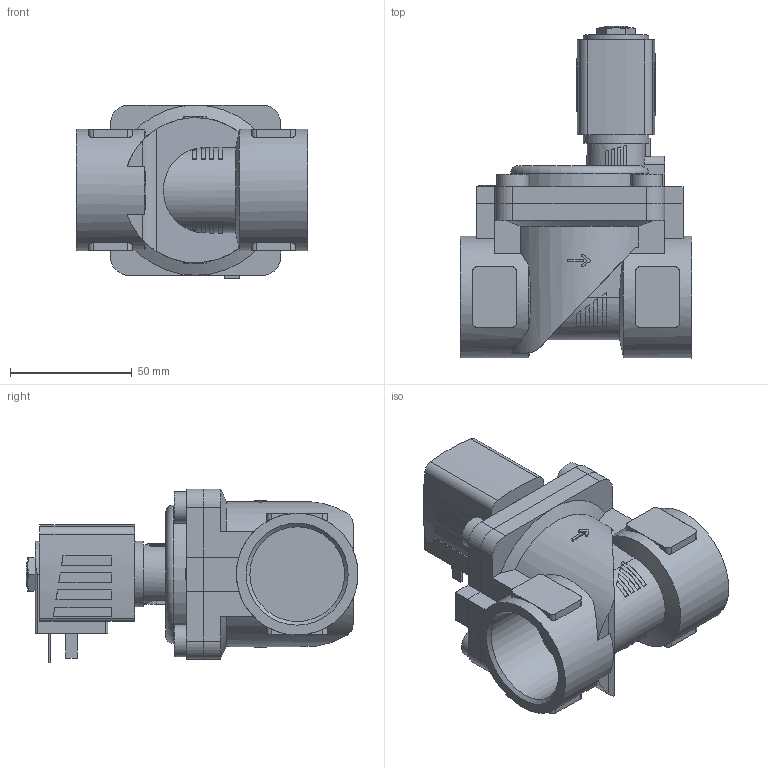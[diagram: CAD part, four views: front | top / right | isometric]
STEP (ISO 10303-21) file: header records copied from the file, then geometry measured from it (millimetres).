
FILE_DESCRIPTION(/* description */ ('STEP AP214'),/* implementation_level */ '2;1');
FILE_NAME(/* name */ '6281-273307-2_2-Way_Solenoid_Valve__Servo-assisted__General_Purpose',/* time_stamp */ '2024-06-21T17:11:29+02:00',/* author */ ('License CC BY-ND 4.0'),/* organization */ ('CADENAS'),/* preprocessor_version */ 'ST-DEVELOPER v19.3',/* originating_system */ 'PARTsolutions',/* authorisation */ ' ');
FILE_SCHEMA (('AUTOMOTIVE_DESIGN {1 0 10303 214 3 1 1}'));
Length unit declared in the file: millimetre
Products named in the file (4): 6281-273307-2/2-Way Solenoid Valve, Servo-assisted, General Purpose; 5281ev250MS2/2-Wege-Magnetventil mit Servomembran-Deckel   ; 6213-25G1_1/4MS-Gehaeuse-; AC10ex-5NA38-Plan-Coil
Assembly tree (3 placements, depth 2):
  6281-273307-2/2-Way Solenoid Valve, Servo-assisted, General Purpose
    5281ev250MS2/2-Wege-Magnetventil mit Servomembran-Deckel   
    6213-25G1_1/4MS-Gehaeuse-
    AC10ex-5NA38-Plan-Coil
Bounding box: 95 x 136.5 x 71.5 mm (x, y, z)
Volume: 308701.7 mm3; surface area: 60780 mm2
Topology: 3 solids, 3 shells, 333 faces, 857 edges, 566 vertices
Faces by surface type: plane 233, cylinder 84, cone 15, torus 1
Full cylindrical faces by diameter (mm): 2.013 x1, 9.74 x1, 13 x4, 27 x1, 38.952 x2, 50 x2
Entity records: 11372 total; most frequent: CARTESIAN_POINT 2000, DIRECTION 1683, ORIENTED_EDGE 1668, EDGE_CURVE 834, AXIS2_PLACEMENT_3D 582, VERTEX_POINT 558, LINE 519, VECTOR 519
